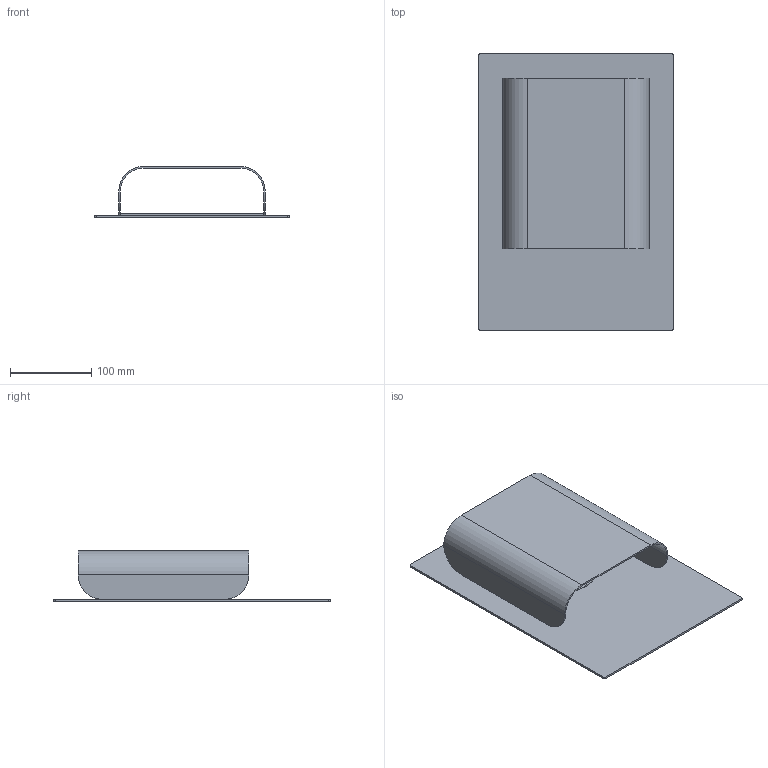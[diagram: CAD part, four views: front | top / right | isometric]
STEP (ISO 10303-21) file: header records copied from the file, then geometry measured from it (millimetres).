
FILE_DESCRIPTION (( 'STEP AP214' ), '1' );
FILE_NAME ('Elwood Portrait Outdoor - Lightweight.STEP', '2023-09-04T04:08:33', ( '' ), ( '' ), 'SwSTEP 2.0', 'SolidWorks 2017', '' );
FILE_SCHEMA (( 'AUTOMOTIVE_DESIGN' ));
Length unit declared in the file: millimetre
Products named in the file (1): Elwood Portrait Outdoor - Lightweight
Bounding box: 240 x 340 x 62.5 mm (x, y, z)
Volume: 322555.9 mm3; surface area: 288996.2 mm2
Topology: 4 solids, 4 shells, 44 faces, 100 edges, 64 vertices
Faces by surface type: plane 24, cylinder 20
Entity records: 1789 total; most frequent: DIRECTION 230, CARTESIAN_POINT 209, ORIENTED_EDGE 200, EDGE_CURVE 100, AXIS2_PLACEMENT_3D 85, VERTEX_POINT 64, VECTOR 60, LINE 60
